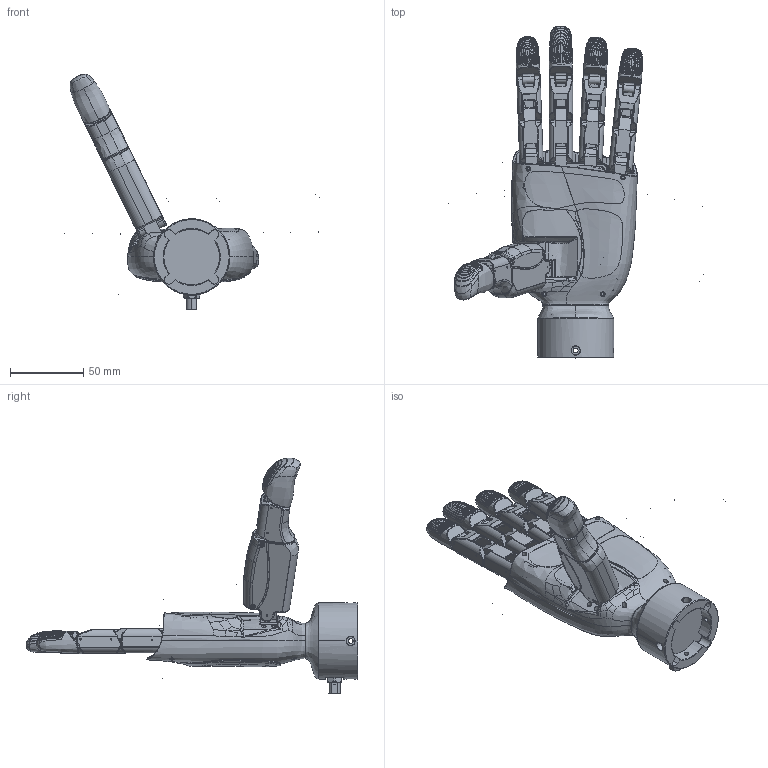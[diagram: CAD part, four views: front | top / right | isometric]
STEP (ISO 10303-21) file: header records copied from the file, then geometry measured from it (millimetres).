
FILE_DESCRIPTION (( 'STEP AP214' ), '1' );
FILE_NAME ('eHand-6-L-CFD-N-8F（左手外发3D）.STEP', '2025-07-04T07:04:27', ( '' ), ( '' ), 'SwSTEP 2.0', 'SolidWorks 2022', '' );
FILE_SCHEMA (( 'AUTOMOTIVE_DESIGN' ));
Length unit declared in the file: millimetre
Products named in the file (17): 30101010005530  B唳掛; 30101010005527  B唳掛; eHand-6-L-CFD-N-8F（外壳1）; eHand-6-L-CFD-N-8F（主体）; eHand-6-L-CFD-N-8F（外壳2）; 30101010005529  B唳掛; 笢硌; 30101010005528  B唳掛; 苤忒硌; 30101010005532  B唳掛; 30101010005535  B唳掛; 湮忒硌; 30101010005553  B唳掛; ʳָ; eHand-6-L-CFD-N-8F（左手外发3D）; 30101010005526  B唳掛; 30101010005557  B唳掛
Assembly tree (21 placements, depth 3):
  eHand-6-L-CFD-N-8F（左手外发3D）
    eHand-6-L-CFD-N-8F（主体）
    eHand-6-L-CFD-N-8F（外壳1）
    eHand-6-L-CFD-N-8F（外壳2）
    ʳָ  x2
      30101010005535  B唳掛
      30101010005532  B唳掛
      30101010005527  B唳掛
    笢硌
      30101010005535  B唳掛
      30101010005532  B唳掛
      30101010005526  B唳掛
    苤忒硌
      30101010005535  B唳掛
      30101010005532  B唳掛
      30101010005528  B唳掛
    湮忒硌
      30101010005557  B唳掛
      30101010005553  B唳掛
      30101010005530  B唳掛
      30101010005529  B唳掛
Bounding box: 174.08 x 226.38 x 160.6 mm (x, y, z)
Volume: 340675.5 mm3; surface area: 142764.7 mm2
Topology: 18 solids, 517 shells, 3250 faces, 7991 edges, 5244 vertices
Faces by surface type: bspline 1347, cylinder 913, plane 666, torus 182, cone 122, sphere 20
Entity records: 295266 total; most frequent: CARTESIAN_POINT 245550, ORIENTED_EDGE 10920, DIRECTION 7776, EDGE_CURVE 5823, VERTEX_POINT 3884, AXIS2_PLACEMENT_3D 2979, EDGE_LOOP 2505, ADVANCED_FACE 2381
